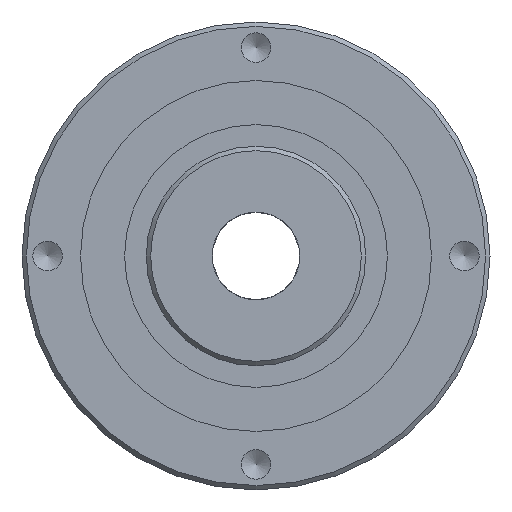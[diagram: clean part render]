
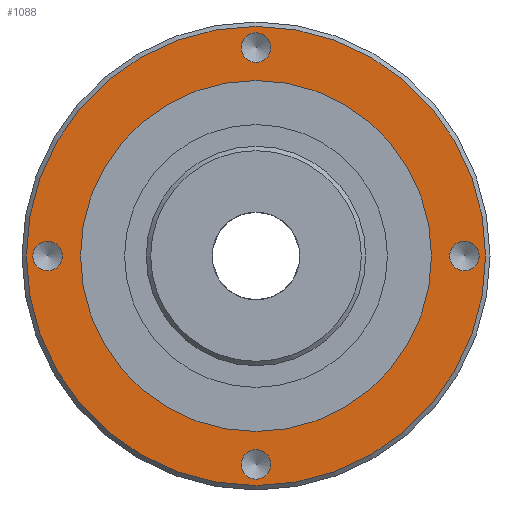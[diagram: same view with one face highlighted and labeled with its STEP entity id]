
A CAD part, left-side view. The second image highlights one B-rep face of the part: STEP entity #1088.
In plain terms, the highlighted planar face has unit normal (-1, 0, 0).
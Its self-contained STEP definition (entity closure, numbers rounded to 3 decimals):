
#83=PLANE('',#1176);
#159=ORIENTED_EDGE('',*,*,#298,.T.);
#160=ORIENTED_EDGE('',*,*,#299,.T.);
#161=ORIENTED_EDGE('',*,*,#300,.T.);
#162=ORIENTED_EDGE('',*,*,#301,.T.);
#163=ORIENTED_EDGE('',*,*,#302,.F.);
#164=ORIENTED_EDGE('',*,*,#297,.T.);
#297=EDGE_CURVE('',#369,#369,#430,.T.);
#298=EDGE_CURVE('',#370,#370,#431,.T.);
#299=EDGE_CURVE('',#371,#371,#432,.T.);
#300=EDGE_CURVE('',#372,#372,#433,.T.);
#301=EDGE_CURVE('',#373,#373,#434,.T.);
#302=EDGE_CURVE('',#374,#374,#435,.T.);
#369=VERTEX_POINT('',#1604);
#370=VERTEX_POINT('',#1607);
#371=VERTEX_POINT('',#1609);
#372=VERTEX_POINT('',#1611);
#373=VERTEX_POINT('',#1613);
#374=VERTEX_POINT('',#1615);
#430=CIRCLE('',#1175,15.7);
#431=CIRCLE('',#1177,1.007);
#432=CIRCLE('',#1178,1.007);
#433=CIRCLE('',#1179,1.007);
#434=CIRCLE('',#1180,1.007);
#435=CIRCLE('',#1181,12.);
#487=EDGE_LOOP('',(#159));
#488=EDGE_LOOP('',(#160));
#489=EDGE_LOOP('',(#161));
#490=EDGE_LOOP('',(#162));
#491=EDGE_LOOP('',(#163));
#492=EDGE_LOOP('',(#164));
#587=FACE_BOUND('',#487,.T.);
#588=FACE_BOUND('',#488,.T.);
#589=FACE_BOUND('',#489,.T.);
#590=FACE_BOUND('',#490,.T.);
#591=FACE_BOUND('',#491,.T.);
#592=FACE_BOUND('',#492,.T.);
#1088=ADVANCED_FACE('',(#587,#588,#589,#590,#591,#592),#83,.F.);
#1175=AXIS2_PLACEMENT_3D('',#1603,#1327,#1328);
#1176=AXIS2_PLACEMENT_3D('',#1605,#1329,#1330);
#1177=AXIS2_PLACEMENT_3D('',#1606,#1331,#1332);
#1178=AXIS2_PLACEMENT_3D('',#1608,#1333,#1334);
#1179=AXIS2_PLACEMENT_3D('',#1610,#1335,#1336);
#1180=AXIS2_PLACEMENT_3D('',#1612,#1337,#1338);
#1181=AXIS2_PLACEMENT_3D('',#1614,#1339,#1340);
#1327=DIRECTION('',(-1.,0.,0.));
#1328=DIRECTION('',(0.,0.,1.));
#1329=DIRECTION('',(1.,0.,0.));
#1330=DIRECTION('',(0.,0.,-1.));
#1331=DIRECTION('',(1.,0.,0.));
#1332=DIRECTION('',(0.,0.,-1.));
#1333=DIRECTION('',(1.,0.,0.));
#1334=DIRECTION('',(0.,0.,-1.));
#1335=DIRECTION('',(1.,0.,0.));
#1336=DIRECTION('',(0.,0.,-1.));
#1337=DIRECTION('',(1.,0.,0.));
#1338=DIRECTION('',(0.,0.,-1.));
#1339=DIRECTION('',(-1.,0.,0.));
#1340=DIRECTION('',(0.,0.,1.));
#1603=CARTESIAN_POINT('',(5.,0.,0.));
#1604=CARTESIAN_POINT('',(5.,0.,15.7));
#1605=CARTESIAN_POINT('',(5.,0.,15.7));
#1606=CARTESIAN_POINT('',(5.,-14.25,0.));
#1607=CARTESIAN_POINT('',(5.,-14.25,-1.007));
#1608=CARTESIAN_POINT('',(5.,0.,-14.25));
#1609=CARTESIAN_POINT('',(5.,0.,-15.257));
#1610=CARTESIAN_POINT('',(5.,14.25,0.));
#1611=CARTESIAN_POINT('',(5.,14.25,-1.007));
#1612=CARTESIAN_POINT('',(5.,0.,14.25));
#1613=CARTESIAN_POINT('',(5.,0.,13.244));
#1614=CARTESIAN_POINT('',(5.,0.,0.));
#1615=CARTESIAN_POINT('',(5.,0.,12.));
